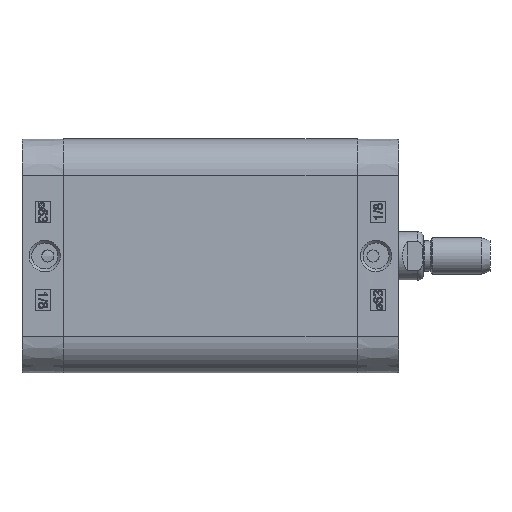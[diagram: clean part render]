
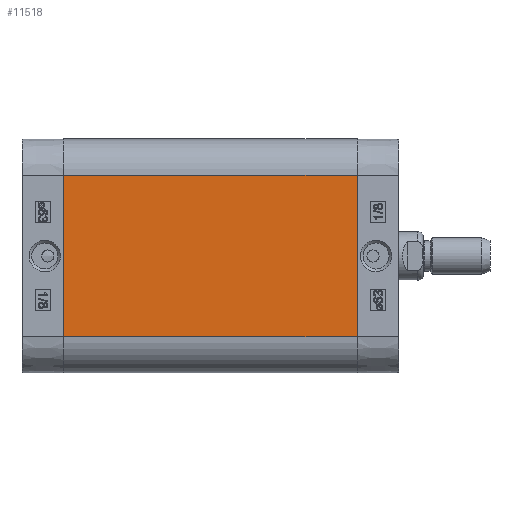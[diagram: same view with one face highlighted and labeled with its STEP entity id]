
A CAD part, left-side view. The second image highlights one B-rep face of the part: STEP entity #11518.
In plain terms, the highlighted planar face has unit normal (-1, 0, 0).
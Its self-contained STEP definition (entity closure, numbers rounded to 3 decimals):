
#5848=CARTESIAN_POINT('',(-38.5,-96.5,26.5));
#5849=VERTEX_POINT('',#5848);
#5856=CARTESIAN_POINT('',(-38.5,-96.5,-26.5));
#5857=VERTEX_POINT('',#5856);
#5858=CARTESIAN_POINT('',(-38.5,-96.5,-26.5));
#5859=DIRECTION('',(0.0,0.0,1.0));
#5860=VECTOR('',#5859,53.0);
#5861=LINE('',#5858,#5860);
#5862=EDGE_CURVE('',#5857,#5849,#5861,.T.);
#11476=CARTESIAN_POINT('',(-38.5,0.0,-26.5));
#11477=VERTEX_POINT('',#11476);
#11478=CARTESIAN_POINT('',(-38.5,0.0,-26.5));
#11479=DIRECTION('',(0.0,-1.0,0.0));
#11480=VECTOR('',#11479,96.5);
#11481=LINE('',#11478,#11480);
#11482=EDGE_CURVE('',#11477,#5857,#11481,.T.);
#11495=CARTESIAN_POINT('',(-38.5,0.0,-26.5));
#11496=DIRECTION('',(-1.0,0.0,0.0));
#11497=DIRECTION('',(0.0,0.0,1.0));
#11498=AXIS2_PLACEMENT_3D('',#11495,#11496,#11497);
#11499=PLANE('',#11498);
#11500=ORIENTED_EDGE('',*,*,#5862,.T.);
#11501=CARTESIAN_POINT('',(-38.5,0.0,26.5));
#11502=VERTEX_POINT('',#11501);
#11503=CARTESIAN_POINT('',(-38.5,0.0,26.5));
#11504=DIRECTION('',(0.0,-1.0,0.0));
#11505=VECTOR('',#11504,96.5);
#11506=LINE('',#11503,#11505);
#11507=EDGE_CURVE('',#11502,#5849,#11506,.T.);
#11508=ORIENTED_EDGE('',*,*,#11507,.F.);
#11509=CARTESIAN_POINT('',(-38.5,0.0,-26.5));
#11510=DIRECTION('',(0.0,0.0,1.0));
#11511=VECTOR('',#11510,53.0);
#11512=LINE('',#11509,#11511);
#11513=EDGE_CURVE('',#11477,#11502,#11512,.T.);
#11514=ORIENTED_EDGE('',*,*,#11513,.F.);
#11515=ORIENTED_EDGE('',*,*,#11482,.T.);
#11516=EDGE_LOOP('',(#11500,#11508,#11514,#11515));
#11517=FACE_OUTER_BOUND('',#11516,.T.);
#11518=ADVANCED_FACE('',(#11517),#11499,.T.);
